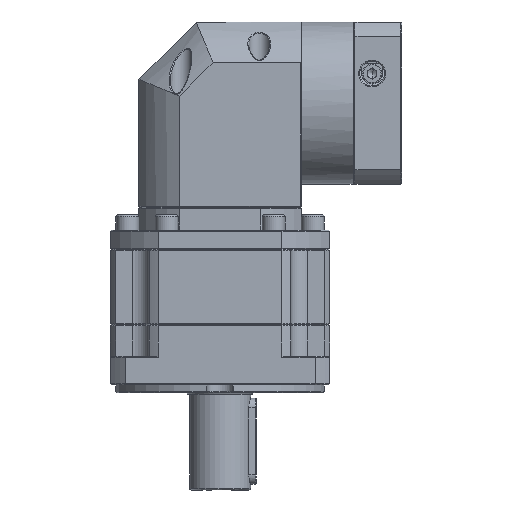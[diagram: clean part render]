
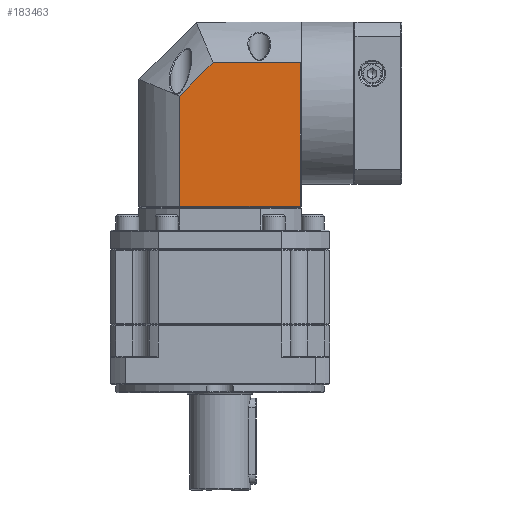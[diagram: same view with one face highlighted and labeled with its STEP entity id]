
A CAD part, front view. The second image highlights one B-rep face of the part: STEP entity #183463.
In plain terms, the highlighted planar face has unit normal (0, -1, 0).
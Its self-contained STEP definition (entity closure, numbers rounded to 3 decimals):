
#4516 = VERTEX_POINT ( 'NONE', #50252 ) ;
#11978 = VECTOR ( 'NONE', #137762, 1000. ) ;
#16487 = LINE ( 'NONE', #94844, #11978 ) ;
#17497 = ORIENTED_EDGE ( 'NONE', *, *, #23202, .F. ) ;
#17589 = EDGE_CURVE ( 'NONE', #4516, #44594, #34391, .T. ) ;
#23202 = EDGE_CURVE ( 'NONE', #4516, #121162, #16487, .T. ) ;
#27887 = DIRECTION ( 'NONE',  ( 0., 0., -1. ) ) ;
#30121 = DIRECTION ( 'NONE',  ( 0., 1., 0. ) ) ;
#32228 = AXIS2_PLACEMENT_3D ( 'NONE', #115342, #30121, #129650 ) ;
#32956 = DIRECTION ( 'NONE',  ( 1., 0., 0. ) ) ;
#34391 = LINE ( 'NONE', #35291, #110141 ) ;
#34963 = CARTESIAN_POINT ( 'NONE',  ( 63.411, 108.315, 43.159 ) ) ;
#35291 = CARTESIAN_POINT ( 'NONE',  ( 63.911, 108.315, -32.054 ) ) ;
#38542 = CARTESIAN_POINT ( 'NONE',  ( 0.198, 108.315, 25.629 ) ) ;
#44594 = VERTEX_POINT ( 'NONE', #127827 ) ;
#46799 = EDGE_LOOP ( 'NONE', ( #178357, #100236, #73846, #162848, #17497 ) ) ;
#50252 = CARTESIAN_POINT ( 'NONE',  ( 0.198, 108.315, -32.054 ) ) ;
#52570 = LINE ( 'NONE', #96824, #119348 ) ;
#56062 = LINE ( 'NONE', #132474, #93869 ) ;
#58147 = PLANE ( 'NONE',  #32228 ) ;
#71288 = VERTEX_POINT ( 'NONE', #34963 ) ;
#71783 = EDGE_CURVE ( 'NONE', #75633, #71288, #56062, .T. ) ;
#73686 = FACE_OUTER_BOUND ( 'NONE', #46799, .T. ) ;
#73846 = ORIENTED_EDGE ( 'NONE', *, *, #71783, .F. ) ;
#75633 = VERTEX_POINT ( 'NONE', #79227 ) ;
#79227 = CARTESIAN_POINT ( 'NONE',  ( 17.729, 108.315, 43.159 ) ) ;
#84501 = CARTESIAN_POINT ( 'NONE',  ( 63.411, 108.315, 64.446 ) ) ;
#93869 = VECTOR ( 'NONE', #32956, 1000. ) ;
#94844 = CARTESIAN_POINT ( 'NONE',  ( 0.198, 108.315, 64.446 ) ) ;
#96824 = CARTESIAN_POINT ( 'NONE',  ( 0.198, 108.315, 25.629 ) ) ;
#97440 = DIRECTION ( 'NONE',  ( 0.707, 0., 0.707 ) ) ;
#100236 = ORIENTED_EDGE ( 'NONE', *, *, #117612, .F. ) ;
#110141 = VECTOR ( 'NONE', #134863, 1000. ) ;
#115342 = CARTESIAN_POINT ( 'NONE',  ( 63.911, 108.315, 64.446 ) ) ;
#116765 = VECTOR ( 'NONE', #27887, 1000. ) ;
#117612 = EDGE_CURVE ( 'NONE', #71288, #44594, #154544, .T. ) ;
#119348 = VECTOR ( 'NONE', #97440, 1000. ) ;
#121162 = VERTEX_POINT ( 'NONE', #38542 ) ;
#127827 = CARTESIAN_POINT ( 'NONE',  ( 63.411, 108.315, -32.054 ) ) ;
#129650 = DIRECTION ( 'NONE',  ( -1., 0., 0. ) ) ;
#132474 = CARTESIAN_POINT ( 'NONE',  ( 63.911, 108.315, 43.159 ) ) ;
#134863 = DIRECTION ( 'NONE',  ( 1., 0., 0. ) ) ;
#137762 = DIRECTION ( 'NONE',  ( 0., 0., 1. ) ) ;
#154544 = LINE ( 'NONE', #84501, #116765 ) ;
#162848 = ORIENTED_EDGE ( 'NONE', *, *, #168766, .F. ) ;
#168766 = EDGE_CURVE ( 'NONE', #121162, #75633, #52570, .T. ) ;
#178357 = ORIENTED_EDGE ( 'NONE', *, *, #17589, .T. ) ;
#183463 = ADVANCED_FACE ( 'NONE', ( #73686 ), #58147, .F. ) ;
